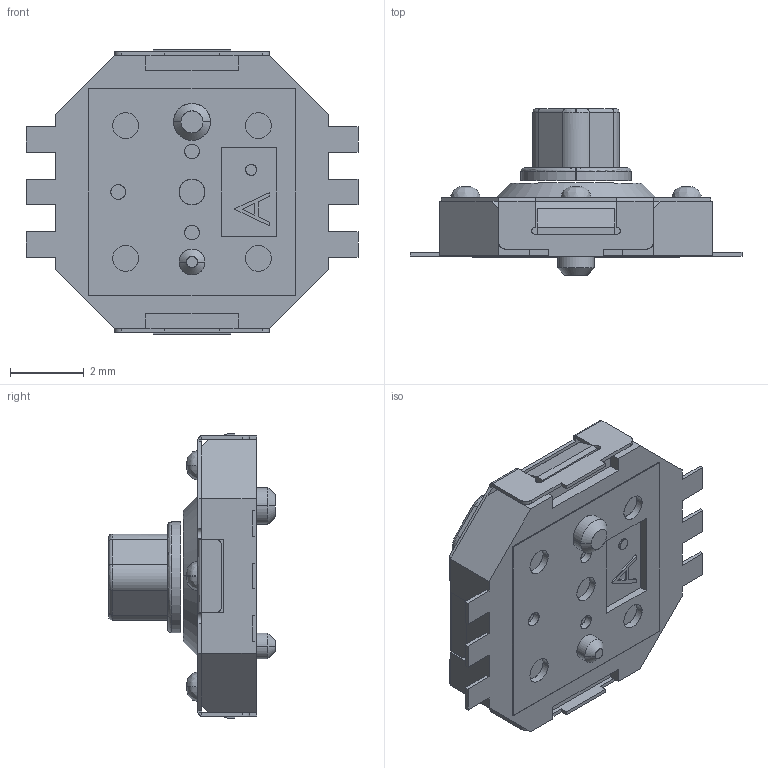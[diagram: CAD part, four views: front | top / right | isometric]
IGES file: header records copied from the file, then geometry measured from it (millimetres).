
Start section: SolidWorks IGES file using analytic representation for surfaces
Global section: file name: D:\MT5\MT4.IGS; native system: SolidWorks 2008; preprocessor: SolidWorks 2008; author: 930201; date: 170628.120735; units: millimetre
Bounding box: 9 x 4.52 x 7.7 mm (x, y, z)
Surface area: 186.8 mm2 (no closed solid volume)
Topology: 0 solids, 0 shells, 297 faces, 2315 edges, 2315 vertices
Faces by surface type: bspline 218, revolution 79
